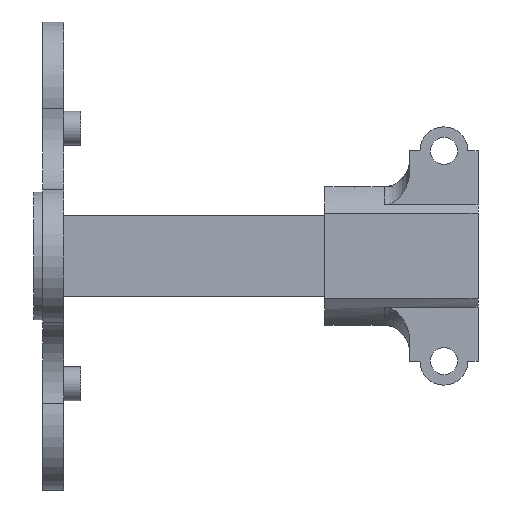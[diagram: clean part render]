
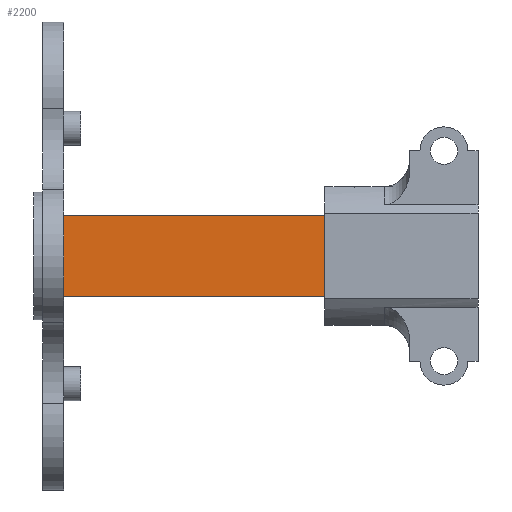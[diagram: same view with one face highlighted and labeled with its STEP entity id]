
A CAD part, left-side view. The second image highlights one B-rep face of the part: STEP entity #2200.
In plain terms, the highlighted planar face has unit normal (-1, 0, 0).
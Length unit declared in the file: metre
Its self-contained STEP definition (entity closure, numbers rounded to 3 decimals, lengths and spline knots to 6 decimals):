
#27=PLANE('',#2339);
#106=LINE('',#3315,#284);
#110=LINE('',#3324,#288);
#111=LINE('',#3326,#289);
#112=LINE('',#3328,#290);
#284=VECTOR('',#2607,1.);
#288=VECTOR('',#2613,1.);
#289=VECTOR('',#2614,1.);
#290=VECTOR('',#2615,1.);
#519=ORIENTED_EDGE('',*,*,#1163,.F.);
#520=ORIENTED_EDGE('',*,*,#1159,.T.);
#521=ORIENTED_EDGE('',*,*,#1164,.T.);
#522=ORIENTED_EDGE('',*,*,#1165,.F.);
#1159=EDGE_CURVE('',#1477,#1478,#106,.T.);
#1163=EDGE_CURVE('',#1477,#1481,#110,.T.);
#1164=EDGE_CURVE('',#1478,#1482,#111,.T.);
#1165=EDGE_CURVE('',#1481,#1482,#112,.T.);
#1477=VERTEX_POINT('',#3316);
#1478=VERTEX_POINT('',#3317);
#1481=VERTEX_POINT('',#3325);
#1482=VERTEX_POINT('',#3327);
#1795=EDGE_LOOP('',(#519,#520,#521,#522));
#1971=FACE_BOUND('',#1795,.T.);
#2200=ADVANCED_FACE('',(#1971),#27,.F.);
#2339=AXIS2_PLACEMENT_3D('',#3323,#2611,#2612);
#2607=DIRECTION('',(0.,1.,0.));
#2611=DIRECTION('',(1.,0.,0.));
#2612=DIRECTION('',(0.,0.,-1.));
#2613=DIRECTION('',(0.,0.,-1.));
#2614=DIRECTION('',(0.,0.,-1.));
#2615=DIRECTION('',(0.,1.,0.));
#3315=CARTESIAN_POINT('',(-0.022226,-0.067776,0.016558));
#3316=CARTESIAN_POINT('',(-0.022226,-0.060076,0.016558));
#3317=CARTESIAN_POINT('',(-0.022226,0.002224,0.016558));
#3323=CARTESIAN_POINT('',(-0.022226,-0.067776,0.007058));
#3324=CARTESIAN_POINT('',(-0.022226,-0.060076,0.007058));
#3325=CARTESIAN_POINT('',(-0.022226,-0.060076,-0.002442));
#3326=CARTESIAN_POINT('',(-0.022226,0.002224,0.007058));
#3327=CARTESIAN_POINT('',(-0.022226,0.002224,-0.002442));
#3328=CARTESIAN_POINT('',(-0.022226,-0.067776,-0.002442));
